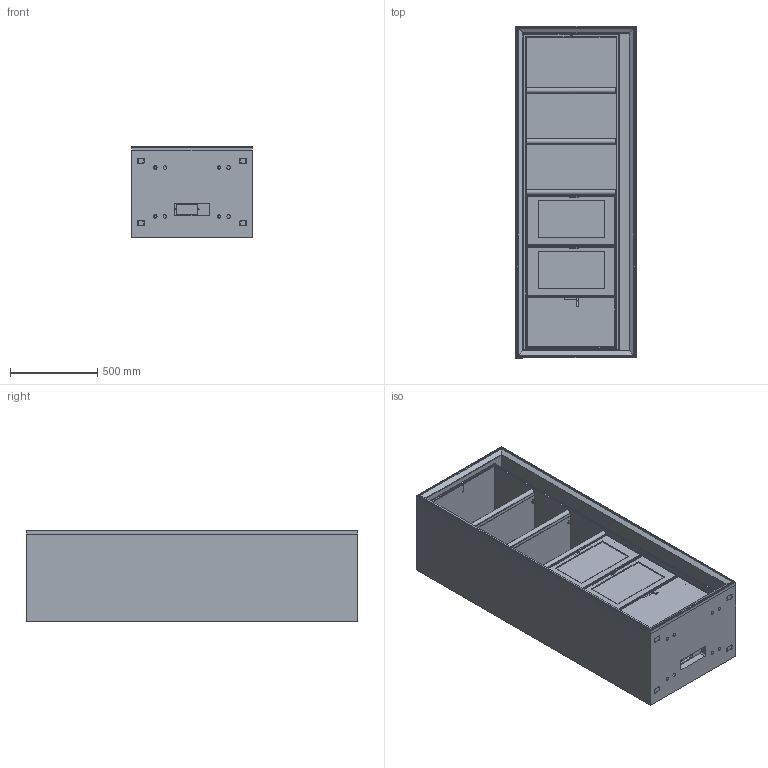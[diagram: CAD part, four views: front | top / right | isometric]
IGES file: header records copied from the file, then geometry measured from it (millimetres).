
Global section: file name: 80089; native system: Autodesk Inventor 2014; preprocessor: unknown; author: Robertom; date: 20140526.112929; units: millimetre
Bounding box: 690 x 1900 x 520 mm (x, y, z)
Volume: 232497664 mm3; surface area: 26158107.8 mm2
Topology: 96 solids, 98 shells, 2544 faces, 7143 edges, 4877 vertices
Faces by surface type: bspline 2544
